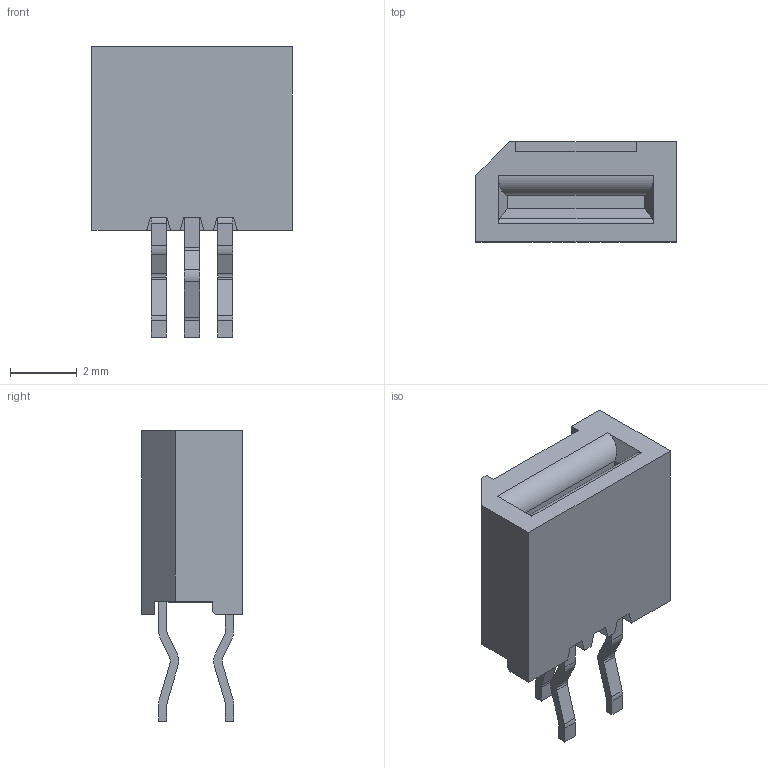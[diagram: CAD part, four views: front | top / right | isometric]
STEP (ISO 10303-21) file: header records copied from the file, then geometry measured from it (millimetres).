
FILE_DESCRIPTION (( 'STEP AP214' ), '1' );
FILE_NAME ('006232003006.STEP', '2024-03-05T02:35:13', ( '' ), ( '' ), 'SwSTEP 2.0', 'SolidWorks 2023', '' );
FILE_SCHEMA (( 'AUTOMOTIVE_DESIGN' ));
Length unit declared in the file: millimetre
Products named in the file (1): 006232003006
Bounding box: 6 x 3 x 8.7 mm (x, y, z)
Volume: 84.6 mm3; surface area: 184.9 mm2
Topology: 1 solids, 1 shells, 102 faces, 284 edges, 188 vertices
Faces by surface type: plane 72, cylinder 30
Entity records: 3278 total; most frequent: CARTESIAN_POINT 596, ORIENTED_EDGE 568, DIRECTION 539, EDGE_CURVE 284, LINE 221, VECTOR 221, VERTEX_POINT 188, AXIS2_PLACEMENT_3D 159
